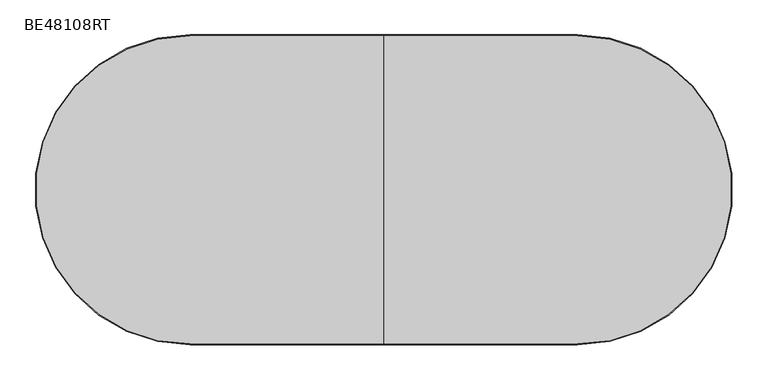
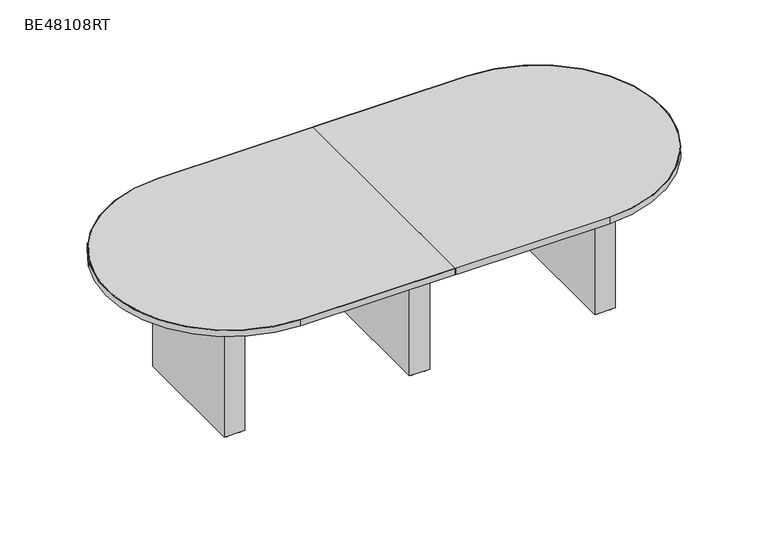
"""IFC4 building model written with IfcOpenShell, lengths in millimetres: furniture geometry, ERG-Beta-Conference_Table-Racetrack : BE48108RT."""

from ifc_helpers import new_model, si_unit, point, frame, frame_2d, origin, origin_with_axes, place, context, project, spatial, polyline, circle_curve, trimmed, segment, composite_curve, outline, extrude, source, transform, mapped, element, save


def be48108rt_c4bf1557(model_context):
    return source(origin(), model_context, "Body", "SweptSolid", [
        extrude(outline(composite_curve([segment(trimmed(circle_curve(frame_2d((511.175, 339.476527)), 9.525), [point((501.65, 339.476527))], [point((520.7, 339.476527))], False, "CARTESIAN"), True, "CONTINUOUS"), segment(trimmed(circle_curve(frame_2d((511.175, 339.476527)), 9.525), [point((520.7, 339.476527))], [point((501.65, 339.476527))], False, "CARTESIAN"), True, "CONTINUOUS")], self_intersect=False)), origin_with_axes(), (0.0, 0.0, 1.0), 9.525),
        extrude(outline(composite_curve([segment(trimmed(circle_curve(frame_2d((574.675, 339.476527)), 9.525), [point((565.15, 339.476527))], [point((584.2, 339.476527))], False, "CARTESIAN"), True, "CONTINUOUS"), segment(trimmed(circle_curve(frame_2d((574.675, 339.476527)), 9.525), [point((584.2, 339.476527))], [point((565.15, 339.476527))], False, "CARTESIAN"), True, "CONTINUOUS")], self_intersect=False)), origin_with_axes(), (0.0, 0.0, 1.0), 9.525),
        extrude(outline(composite_curve([segment(trimmed(circle_curve(frame_2d((511.175, -232.023473)), 9.525), [point((501.65, -232.023473))], [point((520.7, -232.023473))], False, "CARTESIAN"), True, "CONTINUOUS"), segment(trimmed(circle_curve(frame_2d((511.175, -232.023473)), 9.525), [point((520.7, -232.023473))], [point((501.65, -232.023473))], False, "CARTESIAN"), True, "CONTINUOUS")], self_intersect=False)), origin_with_axes(), (0.0, 0.0, 1.0), 9.525),
        extrude(outline(composite_curve([segment(trimmed(circle_curve(frame_2d((574.675, -232.023473)), 9.525), [point((565.15, -232.023473))], [point((584.2, -232.023473))], False, "CARTESIAN"), True, "CONTINUOUS"), segment(trimmed(circle_curve(frame_2d((574.675, -232.023473)), 9.525), [point((584.2, -232.023473))], [point((565.15, -232.023473))], False, "CARTESIAN"), True, "CONTINUOUS")], self_intersect=False)), origin_with_axes(), (0.0, 0.0, 1.0), 9.525),
        extrude(outline(polyline([(593.725, 358.526527), (593.725, -251.073473), (492.125, -251.073473), (492.125, 358.526527), (593.725, 358.526527)])), frame((0.0, 0.0, 9.525), z_axis=(0.0, 0.0, 1.0), x_axis=(1.0, 0.0, 0.0)), (0.0, 0.0, 1.0), 695.3249758),
        extrude(outline(composite_curve([segment(trimmed(circle_curve(frame_2d((1425.575, 339.476527)), 9.525), [point((1416.05, 339.476527))], [point((1435.1, 339.476527))], False, "CARTESIAN"), True, "CONTINUOUS"), segment(trimmed(circle_curve(frame_2d((1425.575, 339.476527)), 9.525), [point((1435.1, 339.476527))], [point((1416.05, 339.476527))], False, "CARTESIAN"), True, "CONTINUOUS")], self_intersect=False)), origin_with_axes(), (0.0, 0.0, 1.0), 9.525),
        extrude(outline(composite_curve([segment(trimmed(circle_curve(frame_2d((1489.075, 339.476527)), 9.525), [point((1479.55, 339.476527))], [point((1498.6, 339.476527))], False, "CARTESIAN"), True, "CONTINUOUS"), segment(trimmed(circle_curve(frame_2d((1489.075, 339.476527)), 9.525), [point((1498.6, 339.476527))], [point((1479.55, 339.476527))], False, "CARTESIAN"), True, "CONTINUOUS")], self_intersect=False)), origin_with_axes(), (0.0, 0.0, 1.0), 9.525),
        extrude(outline(composite_curve([segment(trimmed(circle_curve(frame_2d((1425.575, -232.023473)), 9.525), [point((1416.05, -232.023473))], [point((1435.1, -232.023473))], False, "CARTESIAN"), True, "CONTINUOUS"), segment(trimmed(circle_curve(frame_2d((1425.575, -232.023473)), 9.525), [point((1435.1, -232.023473))], [point((1416.05, -232.023473))], False, "CARTESIAN"), True, "CONTINUOUS")], self_intersect=False)), origin_with_axes(), (0.0, 0.0, 1.0), 9.525),
        extrude(outline(composite_curve([segment(trimmed(circle_curve(frame_2d((1489.075, -232.023473)), 9.525), [point((1479.55, -232.023473))], [point((1498.6, -232.023473))], False, "CARTESIAN"), True, "CONTINUOUS"), segment(trimmed(circle_curve(frame_2d((1489.075, -232.023473)), 9.525), [point((1498.6, -232.023473))], [point((1479.55, -232.023473))], False, "CARTESIAN"), True, "CONTINUOUS")], self_intersect=False)), origin_with_axes(), (0.0, 0.0, 1.0), 9.525),
        extrude(outline(polyline([(1508.125, 358.526527), (1508.125, -251.073473), (1406.525, -251.073473), (1406.525, 358.526527), (1508.125, 358.526527)])), frame((0.0, 0.0, 9.525), z_axis=(0.0, 0.0, 1.0), x_axis=(1.0, 0.0, 0.0)), (0.0, 0.0, 1.0), 695.3249758),
        extrude(outline(composite_curve([segment(trimmed(circle_curve(frame_2d((-403.225, 339.476527)), 9.525), [point((-412.75, 339.476527))], [point((-393.7, 339.476527))], False, "CARTESIAN"), True, "CONTINUOUS"), segment(trimmed(circle_curve(frame_2d((-403.225, 339.476527)), 9.525), [point((-393.7, 339.476527))], [point((-412.75, 339.476527))], False, "CARTESIAN"), True, "CONTINUOUS")], self_intersect=False)), origin_with_axes(), (0.0, 0.0, 1.0), 9.525),
        extrude(outline(composite_curve([segment(trimmed(circle_curve(frame_2d((-339.725, 339.476527)), 9.525), [point((-349.25, 339.476527))], [point((-330.2, 339.476527))], False, "CARTESIAN"), True, "CONTINUOUS"), segment(trimmed(circle_curve(frame_2d((-339.725, 339.476527)), 9.525), [point((-330.2, 339.476527))], [point((-349.25, 339.476527))], False, "CARTESIAN"), True, "CONTINUOUS")], self_intersect=False)), origin_with_axes(), (0.0, 0.0, 1.0), 9.525),
        extrude(outline(composite_curve([segment(trimmed(circle_curve(frame_2d((-403.225, -232.023473)), 9.525), [point((-412.75, -232.023473))], [point((-393.7, -232.023473))], False, "CARTESIAN"), True, "CONTINUOUS"), segment(trimmed(circle_curve(frame_2d((-403.225, -232.023473)), 9.525), [point((-393.7, -232.023473))], [point((-412.75, -232.023473))], False, "CARTESIAN"), True, "CONTINUOUS")], self_intersect=False)), origin_with_axes(), (0.0, 0.0, 1.0), 9.525),
        extrude(outline(composite_curve([segment(trimmed(circle_curve(frame_2d((-339.725, -232.023473)), 9.525), [point((-349.25, -232.023473))], [point((-330.2, -232.023473))], False, "CARTESIAN"), True, "CONTINUOUS"), segment(trimmed(circle_curve(frame_2d((-339.725, -232.023473)), 9.525), [point((-330.2, -232.023473))], [point((-349.25, -232.023473))], False, "CARTESIAN"), True, "CONTINUOUS")], self_intersect=False)), origin_with_axes(), (0.0, 0.0, 1.0), 9.525),
        extrude(outline(polyline([(-320.675, 358.526527), (-320.675, -251.073473), (-422.275, -251.073473), (-422.275, 358.526527), (-320.675, 358.526527)])), frame((0.0, 0.0, 9.525), z_axis=(0.0, 0.0, 1.0), x_axis=(1.0, 0.0, 0.0)), (0.0, 0.0, 1.0), 695.3249758),
        extrude(outline(composite_curve([segment(trimmed(circle_curve(frame_2d((1304.925, 53.726527)), 606.425), [point((1304.925, 660.151527))], [point((1304.925, -552.698473))], False, "CARTESIAN"), True, "CONTINUOUS"), segment(polyline([(1304.925, -552.698473), (544.5125, -552.698473), (544.5125, 660.151527), (1304.925, 660.151527)]), True, "CONTINUOUS")], self_intersect=False)), frame((0.0, 0.0, 704.85), z_axis=(0.0, 0.0, 1.0), x_axis=(1.0, 0.0, 0.0)), (0.0, 0.0, 1.0), 31.75),
        extrude(outline(composite_curve([segment(trimmed(circle_curve(frame_2d((-219.075, 53.726527)), 606.425), [point((-219.075, -552.698473))], [point((-219.075, 660.151527))], False, "CARTESIAN"), True, "CONTINUOUS"), segment(polyline([(-219.075, 660.151527), (541.3375, 660.151527), (541.3375, -552.698473), (-219.075, -552.698473)]), True, "CONTINUOUS")], self_intersect=False)), frame((0.0, 0.0, 704.85), z_axis=(0.0, 0.0, 1.0), x_axis=(1.0, 0.0, 0.0)), (0.0, 0.0, 1.0), 31.75),
        extrude(outline(composite_curve([segment(trimmed(circle_curve(frame_2d((1304.925, 53.726527)), 606.425), [point((1304.925, -552.698473))], [point((1304.925, 660.151527))], True, "CARTESIAN"), True, "CONTINUOUS"), segment(polyline([(1304.925, 660.151527), (544.5125, 660.151527), (544.5125, 663.326527), (1304.925, 663.326527)]), True, "CONTINUOUS"), segment(trimmed(circle_curve(frame_2d((1304.925, 53.726527)), 609.6), [point((1304.925, 663.326527))], [point((1304.925, -555.873473))], False, "CARTESIAN"), True, "CONTINUOUS"), segment(polyline([(1304.925, -555.873473), (544.5125, -555.873473), (544.5125, -552.698473), (1304.925, -552.698473)]), True, "CONTINUOUS")], self_intersect=False)), frame((0.0, 0.0, 704.85), z_axis=(0.0, 0.0, 1.0), x_axis=(1.0, 0.0, 0.0)), (0.0, 0.0, 1.0), 31.75),
        extrude(outline(composite_curve([segment(trimmed(circle_curve(frame_2d((-219.075, 53.726527)), 609.6), [point((-219.075, -555.873473))], [point((-219.075, 663.326527))], False, "CARTESIAN"), True, "CONTINUOUS"), segment(polyline([(-219.075, 663.326527), (541.3375, 663.326527), (541.3375, 660.151527), (-219.075, 660.151527)]), True, "CONTINUOUS"), segment(trimmed(circle_curve(frame_2d((-219.075, 53.726527)), 606.425), [point((-219.075, 660.151527))], [point((-219.075, -552.698473))], True, "CARTESIAN"), True, "CONTINUOUS"), segment(polyline([(-219.075, -552.698473), (541.3375, -552.698473), (541.3375, -555.873473), (-219.075, -555.873473)]), True, "CONTINUOUS")], self_intersect=False)), frame((0.0, 0.0, 704.85), z_axis=(0.0, 0.0, 1.0), x_axis=(1.0, 0.0, 0.0)), (0.0, 0.0, 1.0), 31.75),
    ])


if __name__ == "__main__":
    model = new_model("IFC4")
    model_context = context("Model", 3, world=origin())
    ifc_project = project(units=[si_unit("LENGTHUNIT", "METRE", prefix="MILLI")], contexts=[model_context])
    site = spatial("IfcSite", under=ifc_project)
    building = spatial("IfcBuilding", under=site)
    placement = place(None, origin())
    be48108rt_shape = be48108rt_c4bf1557(model_context)
    element("IfcFurniture", 1, ObjectType="ERG-Beta-Conference_Table-Racetrack : BE48108RT", at=placement, inside=building, context=model_context, shape_type="MappedRepresentation", body=[
        mapped(be48108rt_shape, transform((0.0, 0.0, 0.0), x_axis=(1.0, 0.0, 0.0), y_axis=(0.0, 1.0, 0.0), z_axis=(0.0, 0.0, 1.0))),
    ])
    save(model, "model.ifc")
